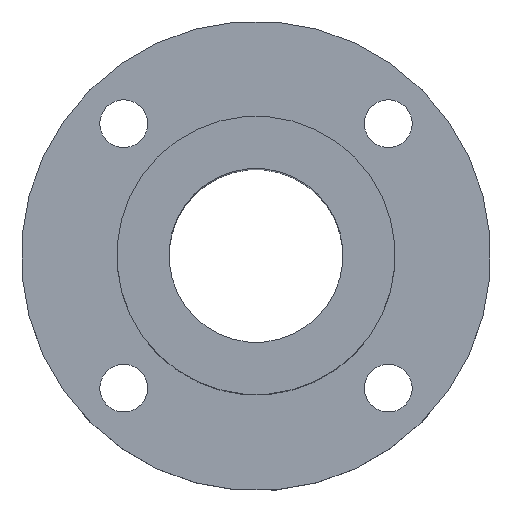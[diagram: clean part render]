
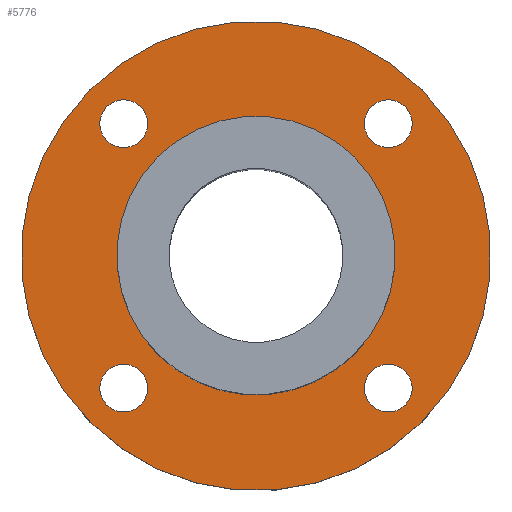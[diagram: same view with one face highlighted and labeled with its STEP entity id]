
A CAD part, top view. The second image highlights one B-rep face of the part: STEP entity #5776.
In plain terms, the highlighted planar face has unit normal (0, 0, 1).
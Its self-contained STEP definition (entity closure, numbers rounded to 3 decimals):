
#110=CIRCLE('',#6140,16.);
#114=CIRCLE('',#6148,27.);
#115=CIRCLE('',#6150,2.75);
#116=CIRCLE('',#6151,2.75);
#117=CIRCLE('',#6152,2.75);
#118=CIRCLE('',#6153,2.75);
#519=ORIENTED_EDGE('',*,*,#2175,.F.);
#520=ORIENTED_EDGE('',*,*,#2176,.F.);
#521=ORIENTED_EDGE('',*,*,#2177,.F.);
#522=ORIENTED_EDGE('',*,*,#2178,.F.);
#523=ORIENTED_EDGE('',*,*,#2170,.T.);
#524=ORIENTED_EDGE('',*,*,#2174,.T.);
#2170=EDGE_CURVE('',#3001,#3001,#110,.F.);
#2174=EDGE_CURVE('',#3005,#3005,#114,.T.);
#2175=EDGE_CURVE('',#3006,#3006,#115,.T.);
#2176=EDGE_CURVE('',#3007,#3007,#116,.T.);
#2177=EDGE_CURVE('',#3008,#3008,#117,.T.);
#2178=EDGE_CURVE('',#3009,#3009,#118,.T.);
#3001=VERTEX_POINT('',#9127);
#3005=VERTEX_POINT('',#9139);
#3006=VERTEX_POINT('',#9142);
#3007=VERTEX_POINT('',#9144);
#3008=VERTEX_POINT('',#9146);
#3009=VERTEX_POINT('',#9148);
#4731=EDGE_LOOP('',(#519));
#4732=EDGE_LOOP('',(#520));
#4733=EDGE_LOOP('',(#521));
#4734=EDGE_LOOP('',(#522));
#4735=EDGE_LOOP('',(#523));
#4736=EDGE_LOOP('',(#524));
#5148=FACE_BOUND('',#4731,.T.);
#5149=FACE_BOUND('',#4732,.T.);
#5150=FACE_BOUND('',#4733,.T.);
#5151=FACE_BOUND('',#4734,.T.);
#5152=FACE_BOUND('',#4735,.T.);
#5153=FACE_BOUND('',#4736,.T.);
#5507=PLANE('',#6149);
#5776=ADVANCED_FACE('',(#5148,#5149,#5150,#5151,#5152,#5153),#5507,.T.);
#6140=AXIS2_PLACEMENT_3D('',#9126,#6677,#6678);
#6148=AXIS2_PLACEMENT_3D('',#9138,#6693,#6694);
#6149=AXIS2_PLACEMENT_3D('',#9140,#6695,#6696);
#6150=AXIS2_PLACEMENT_3D('',#9141,#6697,#6698);
#6151=AXIS2_PLACEMENT_3D('',#9143,#6699,#6700);
#6152=AXIS2_PLACEMENT_3D('',#9145,#6701,#6702);
#6153=AXIS2_PLACEMENT_3D('',#9147,#6703,#6704);
#6677=DIRECTION('',(0.,0.,1.));
#6678=DIRECTION('',(0.707,-0.707,0.));
#6693=DIRECTION('',(0.,0.,1.));
#6694=DIRECTION('',(0.707,-0.707,0.));
#6695=DIRECTION('',(0.,0.,1.));
#6696=DIRECTION('',(0.707,-0.707,0.));
#6697=DIRECTION('',(0.,0.,1.));
#6698=DIRECTION('',(0.707,-0.707,0.));
#6699=DIRECTION('',(0.,0.,1.));
#6700=DIRECTION('',(0.707,-0.707,0.));
#6701=DIRECTION('',(0.,0.,1.));
#6702=DIRECTION('',(0.707,-0.707,0.));
#6703=DIRECTION('',(0.,0.,1.));
#6704=DIRECTION('',(0.707,-0.707,0.));
#9126=CARTESIAN_POINT('',(0.,0.,0.));
#9127=CARTESIAN_POINT('',(11.314,-11.314,0.));
#9138=CARTESIAN_POINT('',(0.,0.,0.));
#9139=CARTESIAN_POINT('',(19.092,-19.092,0.));
#9140=CARTESIAN_POINT('',(0.,0.,0.));
#9141=CARTESIAN_POINT('',(15.203,15.203,0.));
#9142=CARTESIAN_POINT('',(17.147,13.258,0.));
#9143=CARTESIAN_POINT('',(-15.203,15.203,0.));
#9144=CARTESIAN_POINT('',(-13.258,13.258,0.));
#9145=CARTESIAN_POINT('',(-15.203,-15.203,0.));
#9146=CARTESIAN_POINT('',(-13.258,-17.147,0.));
#9147=CARTESIAN_POINT('',(15.203,-15.203,0.));
#9148=CARTESIAN_POINT('',(17.147,-17.147,0.));
